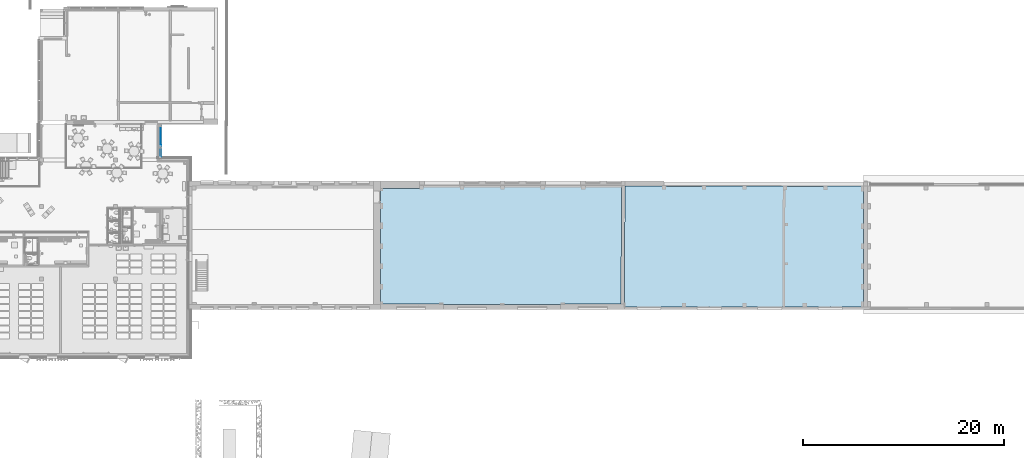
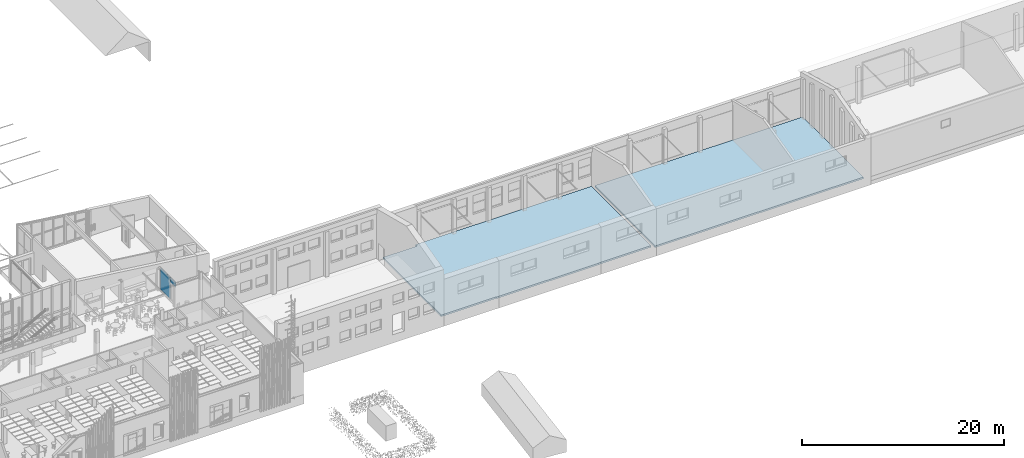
# One storey, part 81 of 301: 2 plates, 2 slabs, 1 element without a shape of its own.
"""IFC2X3 building model written with IfcOpenShell, lengths in millimetres."""

from ifc_helpers import new_model, entity, si_unit, converted_unit, derived_unit, money_unit, direction, frame, origin_with_axes, place, context, subcontext, project, spatial, faceted_brep, material, type_object, element, aggregate, save


model = new_model("IFC2X3")

# Units and contexts
model_context = context("Model", 3, precision=0.01, world=origin_with_axes(), true_north=direction((0.0, 1.0)))
body_context = subcontext(model_context, "Body", "Model", "MODEL_VIEW")
ifc_project = project(units=[si_unit("LENGTHUNIT", "METRE", prefix="MILLI"), si_unit("AREAUNIT", "SQUARE_METRE"), si_unit("VOLUMEUNIT", "CUBIC_METRE"), converted_unit("PLANEANGLEUNIT", "DEGREE", entity("IfcPlaneAngleMeasure", 0.0174532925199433), si_unit("PLANEANGLEUNIT", "RADIAN"), dimensions=[0, 0, 0, 0, 0, 0, 0]), money_unit("EUR"), converted_unit("TIMEUNIT", "Year", entity("IfcTimeMeasure", 31557600.0), si_unit("TIMEUNIT", "SECOND"), dimensions=[0, 0, 1, 0, 0, 0, 0]), si_unit("MASSUNIT", "GRAM", prefix="KILO"), si_unit("THERMODYNAMICTEMPERATUREUNIT", "DEGREE_CELSIUS"), si_unit("LUMINOUSINTENSITYUNIT", "LUMEN"), si_unit("ENERGYUNIT", "JOULE", prefix="MEGA"), derived_unit("THERMALCONDUCTANCEUNIT", [(si_unit("POWERUNIT", "WATT"), 1), (si_unit("LENGTHUNIT", "METRE"), -1), (si_unit("THERMODYNAMICTEMPERATUREUNIT", "KELVIN"), -1)]), derived_unit("SPECIFICHEATCAPACITYUNIT", [(si_unit("ENERGYUNIT", "JOULE"), 1), (si_unit("MASSUNIT", "GRAM", prefix="KILO"), -1), (si_unit("THERMODYNAMICTEMPERATUREUNIT", "KELVIN"), -1)]), derived_unit("MASSDENSITYUNIT", [(si_unit("MASSUNIT", "GRAM", prefix="KILO"), 1), (si_unit("VOLUMEUNIT", "CUBIC_METRE"), -1)])], contexts=[model_context])

# Site, building, storey
site_placement = place(None, frame((0.0, 0.0, 8650.0), z_axis=(0.0, 0.0, 1.0), x_axis=(1.0, 0.0, 0.0)))
site = spatial("IfcSite", under=ifc_project, at=site_placement, Name="43301:001:0844", CompositionType="ELEMENT")
building_placement = place(site_placement, origin_with_axes())
building = spatial("IfcBuilding", under=site, at=building_placement, Name="Kuressaare Ametikooli tuulikute mehaanikute õppekorpus", CompositionType="ELEMENT")
storey_placement = place(building_placement, origin_with_axes())
storey = spatial("IfcBuildingStorey", under=building, at=storey_placement, Name="1.korrus", CompositionType="ELEMENT", Elevation=0.0)

# Slabs
ifc_material_1 = material(Name="GENEERILINE - KONSTRUKTRIOON")
slab_type = type_object("IfcSlabType", Name="GENEERILINE - KONSTRUKTRIOON 200", PredefinedType="NOTDEFINED")
slab_1_placement = place(storey_placement, frame((152253.620300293, 14077.6577169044, 0.0), z_axis=(0.0, 0.0, 1.0), x_axis=(1.0, 0.0, 0.0)))
element("IfcSlab", 1, at=slab_1_placement, inside=storey, type_object=slab_type, material=ifc_material_1, PredefinedType="NOTDEFINED", context=body_context, shape_type="Brep", body=[
    faceted_brep([(6276.843872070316, -0.5078488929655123, 0.0), (0.0, 0.0, 0.0), (0.0, 0.0, -200.0000000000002), (6276.843872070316, -0.5078488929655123, -200.0000000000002), (3887.617797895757, 11495.33094581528, 0.0), (0.0, 11495.33094581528, 0.0), (6276.959638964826, -39.99999999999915, 0.0), (17907.19281153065, -39.99999999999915, 0.0), (17907.19281153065, 0.0, 0.0), (23921.153237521, 0.0, 0.0), (23976.41332940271, 11795.33094581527, 0.0), (3887.617797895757, 11795.33094581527, 0.0), (0.0, 11495.33094581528, -200.0000000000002), (6276.959638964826, -39.99999999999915, -200.0000000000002), (3887.617797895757, 11495.33094581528, -200.0000000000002), (3887.617797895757, 11795.33094581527, -200.0000000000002), (23976.41332940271, 11795.33094581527, -200.0000000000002), (23921.153237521, 0.0, -200.0000000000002), (17907.19281153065, 0.0, -200.0000000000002), (17907.19281153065, -39.99999999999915, -200.0000000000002)], [[[0, 1, 2, 3]], [[4, 5, 1, 0, 6, 7, 8, 9, 10, 11]], [[1, 5, 12, 2]], [[13, 3, 2, 12, 14, 15, 16, 17, 18, 19]], [[6, 0, 3, 13]], [[5, 4, 14, 12]], [[7, 6, 13, 19]], [[8, 7, 19, 18]], [[9, 8, 18, 17]], [[10, 9, 17, 16]], [[11, 10, 16, 15]], [[4, 11, 15, 14]]]),
])
slab_2_placement = place(storey_placement, frame((176503.5190357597, 13807.91339134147, 0.0), z_axis=(0.0, 0.0, 1.0), x_axis=(1.0, 0.0, 0.0)))
element("IfcSlab", 2, at=slab_2_placement, inside=storey, type_object=slab_type, material=ifc_material_1, PredefinedType="NOTDEFINED", context=body_context, shape_type="Brep", body=[
    faceted_brep([(23760.10126453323, -0.2583722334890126, 0.0), (0.0, 0.0, 0.0), (0.0, 0.0, -200.0000000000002), (23760.10126453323, -0.2583722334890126, -200.0000000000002), (3930.134793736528, 12005.07527137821, 0.0), (58.485878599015, 12005.07527137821, 0.0), (23760.10126453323, 11982.78540040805, 0.0), (3930.132587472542, 12003.11249011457, 0.0), (58.485878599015, 12005.07527137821, -200.0000000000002), (23760.10126453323, 11982.78540040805, -200.0000000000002), (3930.134793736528, 12005.07527137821, -200.0000000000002), (3930.132587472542, 12003.11249011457, -200.0000000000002)], [[[0, 1, 2, 3]], [[4, 5, 1, 0, 6, 7]], [[1, 5, 8, 2]], [[9, 3, 2, 8, 10, 11]], [[6, 0, 3, 9]], [[5, 4, 10, 8]], [[7, 6, 9, 11]], [[4, 7, 11, 10]]]),
])

# Curtain wall, plates
curtain_wall_type = type_object("IfcCurtainWallType", Name="Curtain Wall Type", PredefinedType="NOTDEFINED")
curtain_wall_placement = place(storey_placement, frame((130440.0312746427, 29344.34887802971, 34.99990943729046), z_axis=(0.0, 0.0, 1.0), x_axis=(1.0, 0.0, 0.0)))
curtain_wall = element("IfcCurtainWall", 3, at=curtain_wall_placement, inside=storey, type_object=curtain_wall_type, Name="KF-2")
ifc_material_2 = material(Name="Klaas")
plate_type_1 = type_object("IfcPlateType", Name="Main Panel 1069 x 25 x 40", PredefinedType="NOTDEFINED")
plate_1_placement = place(curtain_wall_placement, frame((0.0, 0.0, 2390.000051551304), z_axis=(0.0, 0.0, 1.0), x_axis=(-0.001499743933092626, 0.9999988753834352, 0.0)))
plate_1 = element("IfcPlate", 4, at=plate_1_placement, type_object=plate_type_1, material=ifc_material_2, context=body_context, shape_type="Brep", body=[
    faceted_brep([(-639.5816820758, 20.00000000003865, 214.9999797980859), (-639.5816820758, -19.99999999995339, 214.9999797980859), (429.7211264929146, -19.99999999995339, 214.9999797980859), (429.721126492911, 20.00000000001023, 214.9999797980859), (-639.5816820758, 20.00000000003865, -309.9999993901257), (-639.5816820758, -19.99999999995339, -309.9999993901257), (424.7211187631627, -19.99999999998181, -309.9999993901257), (424.7211187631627, -19.99999999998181, 190.0000371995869), (429.7211264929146, -19.99999999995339, 190.0000371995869), (429.721126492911, 20.00000000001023, 190.0000371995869), (424.7211187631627, 20.00000000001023, 190.0000371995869), (424.7211187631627, 20.00000000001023, -309.9999993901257)], [[[0, 1, 2, 3]], [[4, 5, 1, 0]], [[1, 5, 6, 7, 8, 2]], [[3, 2, 8, 9]], [[0, 3, 9, 10, 11, 4]], [[11, 6, 5, 4]], [[10, 7, 6, 11]], [[9, 8, 7, 10]]]),
])
plate_type_2 = type_object("IfcPlateType", Name="Main Panel 1360 x 2600 x 40", PredefinedType="NOTDEFINED")
plate_2_placement = place(curtain_wall_placement, frame((-1.579901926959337, 1053.446601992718, 1560.625031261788), z_axis=(0.0, 0.0, 1.0), x_axis=(-0.001499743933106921, 0.9999988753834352, 0.0)))
plate_2 = element("IfcPlate", 5, at=plate_2_placement, type_object=plate_type_2, material=ifc_material_2, Name="AVU10", context=body_context, shape_type="Brep", body=[
    faceted_brep([(-623.7266446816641, 19.99999999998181, 1044.37500230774), (-623.7266446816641, -20.00000000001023, 1044.37500230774), (-58.90989257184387, -19.99999999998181, 1044.37500230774), (-58.90989257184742, 19.99999999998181, 1044.37500230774), (-623.7266446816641, 19.99999999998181, 1019.375064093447), (-623.7266446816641, -20.00000000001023, 1019.375064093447), (-618.7266414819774, -20.00000000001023, 1019.375064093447), (-618.7266414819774, -20.00000000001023, 514.3750131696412), (-618.7266414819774, -20.00000000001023, -1555.625028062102), (-58.90989257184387, -19.99999999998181, -1555.625028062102), (1301.363222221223, -20.00000000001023, -1555.625028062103), (1301.363222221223, -20.00000000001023, 1044.37500230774), (1301.36322222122, 20.00000000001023, 1044.37500230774), (1301.36322222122, 20.00000000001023, -1555.625028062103), (-58.90989257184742, 19.99999999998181, -1555.625028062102), (-618.7266414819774, 19.99999999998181, -1555.625028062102), (-618.7266414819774, 19.99999999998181, 514.3750131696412), (-618.7266414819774, 19.99999999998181, 1019.375064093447)], [[[0, 1, 2, 3]], [[4, 5, 1, 0]], [[1, 5, 6, 7, 8, 9, 10, 11, 2]], [[3, 2, 11, 12]], [[0, 3, 12, 13, 14, 15, 16, 17, 4]], [[17, 6, 5, 4]], [[16, 7, 6, 17]], [[15, 8, 7, 16]], [[14, 9, 8, 15]], [[13, 10, 9, 14]], [[12, 11, 10, 13]]]),
])
aggregate(curtain_wall, [plate_1, plate_2])

save(model, "model.ifc")
